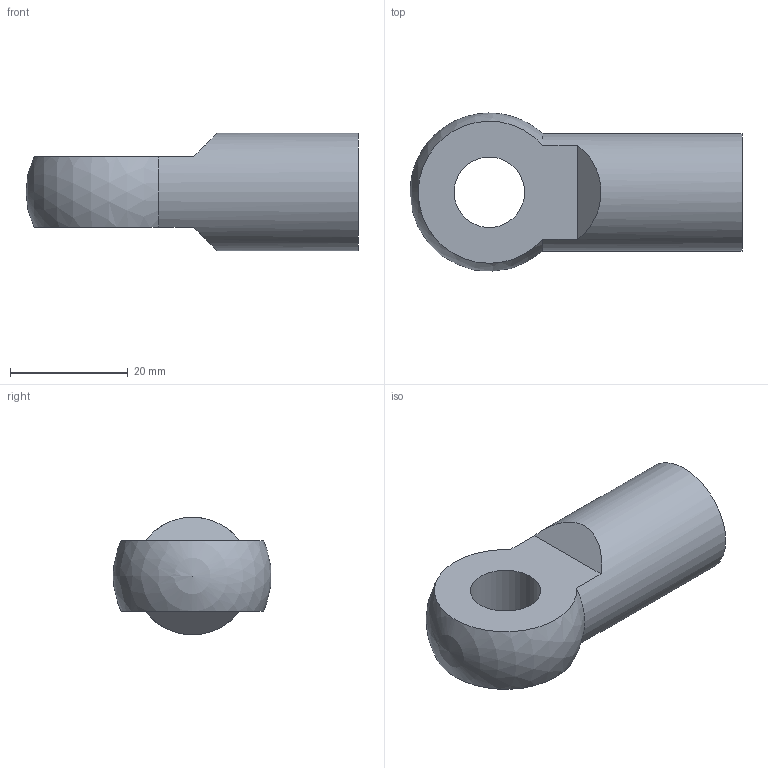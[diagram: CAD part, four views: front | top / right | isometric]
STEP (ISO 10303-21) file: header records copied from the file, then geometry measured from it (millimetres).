
FILE_DESCRIPTION( ( 'STEP AP203' ), '1' );
FILE_NAME( 'C:/Temp/Ganter_Step_05_03_2020/data/3_6/gn752/Joint piece GN 752-12-M12.stp', '2020-03-12T14:12:41', ( 'License CC BY-ND 4.0' ), ( 'CADENAS' ), ' ', 'PARTsolutions', ' ' );
FILE_SCHEMA( ( 'CONFIG_CONTROL_DESIGN' ) );
Length unit declared in the file: millimetre
Products named in the file (1): _Joint piece GN 752-12-M12
Bounding box: 56.5 x 26.89 x 20 mm (x, y, z)
Volume: 12046.5 mm3; surface area: 5188.2 mm2
Topology: 1 solids, 1 shells, 12 faces, 31 edges, 20 vertices
Faces by surface type: plane 5, cylinder 3, sphere 2, cone 2
Full cylindrical faces by diameter (mm): 10.106 x1, 12 x1, 20 x1
Entity records: 348 total; most frequent: DIRECTION 58, CARTESIAN_POINT 49, ORIENTED_EDGE 38, AXIS2_PLACEMENT_3D 26, EDGE_LOOP 20, EDGE_CURVE 19, VERTEX_POINT 17, FACE_OUTER_BOUND 15
